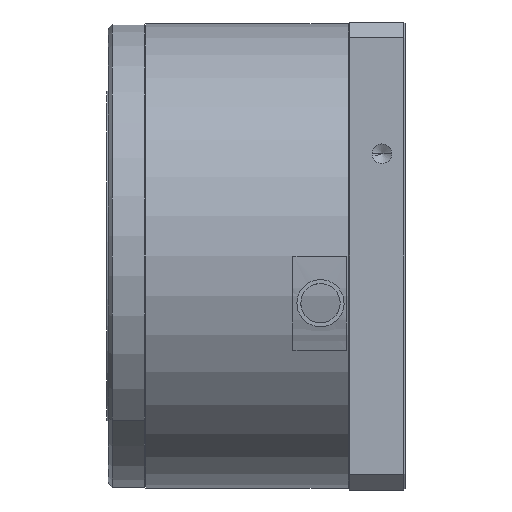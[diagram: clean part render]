
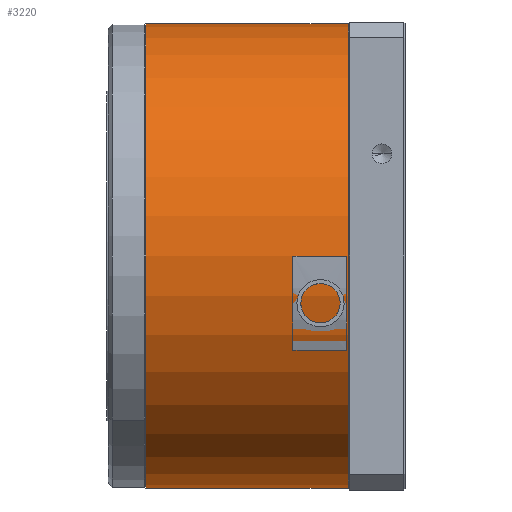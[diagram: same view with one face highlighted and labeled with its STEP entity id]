
A CAD part, left-side view. The second image highlights one B-rep face of the part: STEP entity #3220.
In plain terms, the highlighted cylindrical face has radius 29.5 mm (diameter 59 mm), a partial arc.
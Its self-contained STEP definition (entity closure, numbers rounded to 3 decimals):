
#74 = LINE ( 'NONE', #2889, #8169 ) ;
#171 = ORIENTED_EDGE ( 'NONE', *, *, #7308, .T. ) ;
#260 = DIRECTION ( 'NONE',  ( 0., -1., 0. ) ) ;
#1719 = DIRECTION ( 'NONE',  ( 0., -1., 0. ) ) ;
#2618 = ORIENTED_EDGE ( 'NONE', *, *, #4963, .T. ) ;
#2889 = CARTESIAN_POINT ( 'NONE',  ( 0., 6.29, -29.5 ) ) ;
#2894 = EDGE_CURVE ( 'NONE', #7815, #4768, #7761, .T. ) ;
#2911 = EDGE_CURVE ( 'NONE', #4472, #7815, #8177, .T. ) ;
#3220 = ADVANCED_FACE ( 'NONE', ( #4398 ), #10737, .T. ) ;
#3455 = DIRECTION ( 'NONE',  ( 0., 1., 0. ) ) ;
#3600 = VERTEX_POINT ( 'NONE', #9542 ) ;
#4398 = FACE_OUTER_BOUND ( 'NONE', #5927, .T. ) ;
#4472 = VERTEX_POINT ( 'NONE', #10009 ) ;
#4652 = CARTESIAN_POINT ( 'NONE',  ( 0., -19.41, 0. ) ) ;
#4729 = ORIENTED_EDGE ( 'NONE', *, *, #2894, .F. ) ;
#4768 = VERTEX_POINT ( 'NONE', #9986 ) ;
#4816 = VECTOR ( 'NONE', #8700, 1000. ) ;
#4894 = CARTESIAN_POINT ( 'NONE',  ( 0., 6.29, 0. ) ) ;
#4963 = EDGE_CURVE ( 'NONE', #4472, #3600, #74, .T. ) ;
#5371 = DIRECTION ( 'NONE',  ( 0., 0., 1. ) ) ;
#5927 = EDGE_LOOP ( 'NONE', ( #8475, #2618, #171, #4729 ) ) ;
#6898 = CARTESIAN_POINT ( 'NONE',  ( 0., 6.29, 0. ) ) ;
#7308 = EDGE_CURVE ( 'NONE', #3600, #4768, #10707, .T. ) ;
#7761 = LINE ( 'NONE', #11543, #4816 ) ;
#7815 = VERTEX_POINT ( 'NONE', #8010 ) ;
#8010 = CARTESIAN_POINT ( 'NONE',  ( 0., 6.29, 29.5 ) ) ;
#8169 = VECTOR ( 'NONE', #260, 1000. ) ;
#8177 = CIRCLE ( 'NONE', #9528, 29.5 ) ;
#8475 = ORIENTED_EDGE ( 'NONE', *, *, #2911, .F. ) ;
#8652 = AXIS2_PLACEMENT_3D ( 'NONE', #4652, #10958, #9061 ) ;
#8700 = DIRECTION ( 'NONE',  ( 0., -1., 0. ) ) ;
#9061 = DIRECTION ( 'NONE',  ( 0., 0., -1. ) ) ;
#9528 = AXIS2_PLACEMENT_3D ( 'NONE', #6898, #3455, #10612 ) ;
#9542 = CARTESIAN_POINT ( 'NONE',  ( 0., -19.41, -29.5 ) ) ;
#9692 = AXIS2_PLACEMENT_3D ( 'NONE', #4894, #1719, #5371 ) ;
#9986 = CARTESIAN_POINT ( 'NONE',  ( 0., -19.41, 29.5 ) ) ;
#10009 = CARTESIAN_POINT ( 'NONE',  ( 0., 6.29, -29.5 ) ) ;
#10612 = DIRECTION ( 'NONE',  ( 0., 0., -1. ) ) ;
#10707 = CIRCLE ( 'NONE', #8652, 29.5 ) ;
#10737 = CYLINDRICAL_SURFACE ( 'NONE', #9692, 29.5 ) ;
#10958 = DIRECTION ( 'NONE',  ( 0., 1., 0. ) ) ;
#11543 = CARTESIAN_POINT ( 'NONE',  ( 0., 6.29, 29.5 ) ) ;
